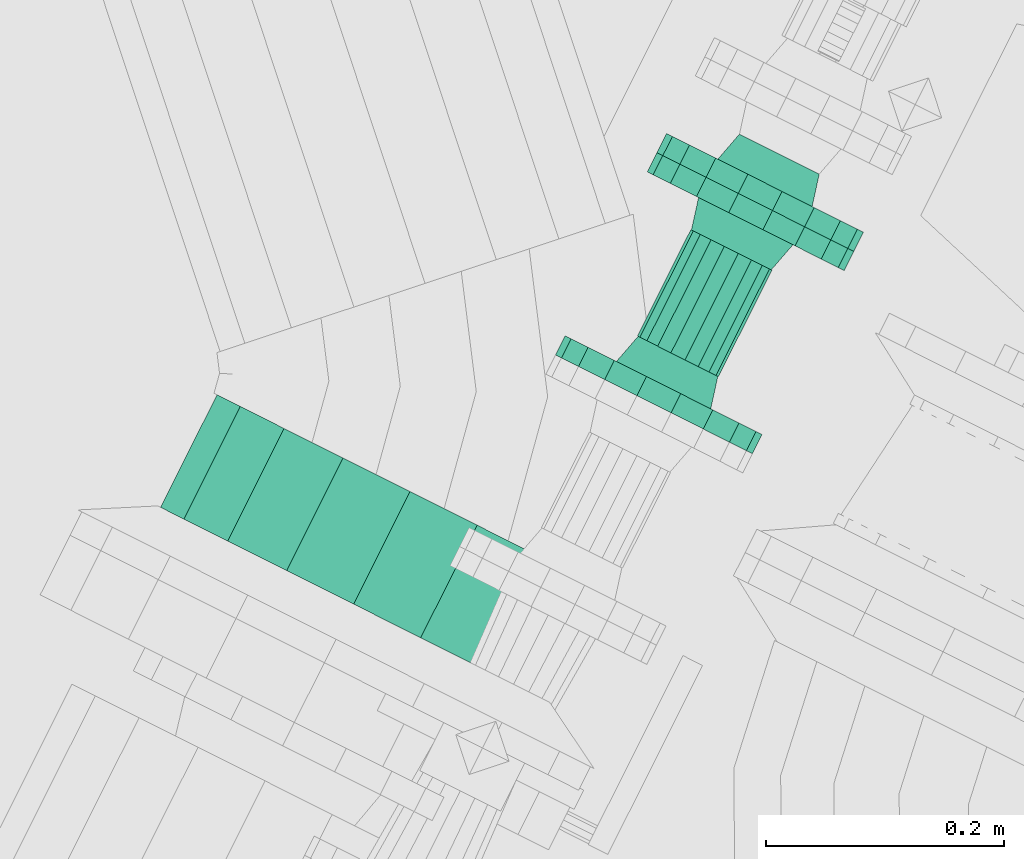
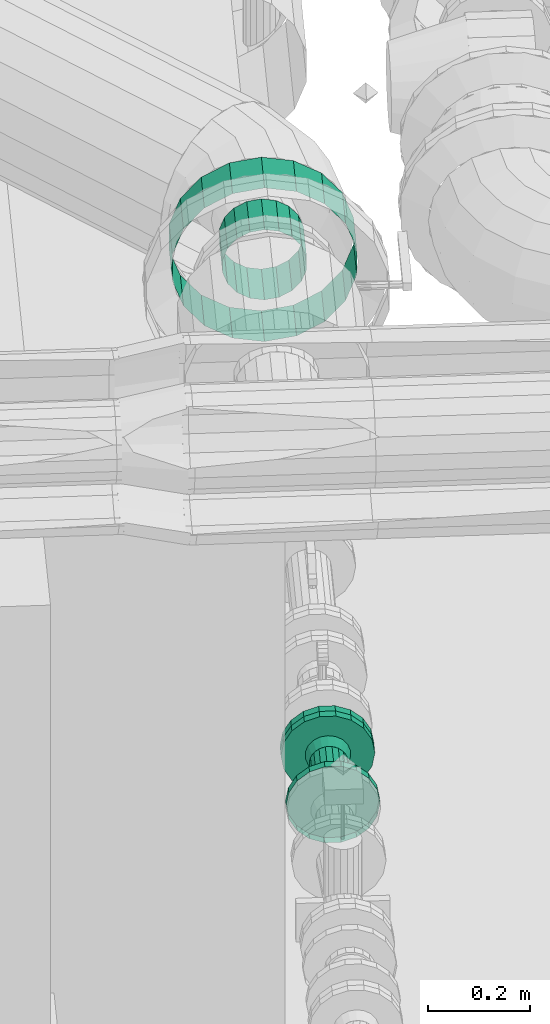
# One storey, part 67 of 206: 3 flow fittings, 2 flow segments.
"""IFC2X3 building model written with IfcOpenShell, lengths in metres."""

from ifc_helpers import new_model, si_unit, derived_unit, direction, frame, origin, place, context, subcontext, project, spatial, face_set, surface_model, source, transform, mapped, material, type_object, type_shapes, element, save


model = new_model("IFC2X3")

# Units and contexts
model_context = context("Model", 3, precision=5.2338327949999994e-05, world=origin(), true_north=direction((0.0, 1.0)))
body_context = subcontext(model_context, "Body", "Model", "MODEL_VIEW")
ifc_project = project(units=[si_unit("LENGTHUNIT", "METRE"), si_unit("AREAUNIT", "SQUARE_METRE"), si_unit("VOLUMEUNIT", "CUBIC_METRE"), si_unit("MASSUNIT", "GRAM", prefix="KILO"), si_unit("PLANEANGLEUNIT", "RADIAN"), derived_unit("THERMALTRANSMITTANCEUNIT", [(si_unit("MASSUNIT", "GRAM", prefix="KILO"), 1), (si_unit("THERMODYNAMICTEMPERATUREUNIT", "KELVIN"), -1), (si_unit("TIMEUNIT", "SECOND"), -3)])], contexts=[model_context])

# Site, building, storey
site_placement = place(None, frame((0.0, 0.0, 0.0), z_axis=(0.0, 0.0, 1.0), x_axis=(0.8939966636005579, -0.4480736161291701, 0.0)))
site = spatial("IfcSite", under=ifc_project, at=site_placement, Name="Default", CompositionType="ELEMENT")
building_placement = place(site_placement, origin())
building = spatial("IfcBuilding", under=site, at=building_placement, CompositionType="ELEMENT")
storey_placement = place(building_placement, origin())
storey = spatial("IfcBuildingStorey", under=building, at=storey_placement, Name="Erdgeschoss", CompositionType="ELEMENT", Elevation=0.0)

# Flow segment
ifc_material_1 = material(Name="IfcSurfaceStyle #9317")
distribution_element_type_1 = type_object("IfcDistributionElementType", Name="Stahlrohr nach DIN 2448 343104:Stahlrohr nach DIN 2448 343104", material=ifc_material_1)
shared_shape_1 = source(origin(), body_context, "Body", "SurfaceModel", [
    surface_model("IfcFaceBasedSurfaceModel", [(24.94039869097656, 5.560674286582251, 2.43815), (24.9116176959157, 5.560674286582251, 2.433075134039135), (24.9116176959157, 5.454912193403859, 2.4330751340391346), (24.940398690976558, 5.454912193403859, 2.4381499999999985), (24.886308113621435, 5.560674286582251, 2.4184626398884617), (24.886308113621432, 5.454912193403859, 2.418462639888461), (24.8675226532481, 5.560674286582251, 2.396075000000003), (24.867522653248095, 5.454912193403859, 2.3960750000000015), (24.857527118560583, 5.560674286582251, 2.3686124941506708), (24.857527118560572, 5.454912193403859, 2.3686124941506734), (24.857527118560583, 5.560674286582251, 2.3393875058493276), (24.857527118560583, 5.454912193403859, 2.3393875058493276), (24.867522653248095, 5.560674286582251, 2.3119249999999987), (24.867522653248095, 5.454912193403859, 2.311924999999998), (24.886308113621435, 5.560674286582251, 2.28953736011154), (24.886308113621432, 5.454912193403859, 2.289537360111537), (24.9116176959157, 5.560674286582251, 2.274924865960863), (24.9116176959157, 5.454912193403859, 2.274924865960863), (24.94039869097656, 5.560674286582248, 2.2698499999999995), (24.940398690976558, 5.454912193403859, 2.26985), (24.969179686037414, 5.560674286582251, 2.2749248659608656), (24.96917968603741, 5.454912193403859, 2.2749248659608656), (24.994489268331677, 5.560674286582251, 2.289537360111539), (24.994489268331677, 5.454912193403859, 2.289537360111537), (25.013274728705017, 5.560674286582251, 2.3119250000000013), (25.013274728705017, 5.454912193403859, 2.3119250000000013), (25.023270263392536, 5.560674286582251, 2.3393875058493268), (25.023270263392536, 5.454912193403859, 2.3393875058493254), (25.023270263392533, 5.560674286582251, 2.3686124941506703), (25.023270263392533, 5.454912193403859, 2.368612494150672), (25.013274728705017, 5.560674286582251, 2.3960749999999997), (25.013274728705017, 5.454912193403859, 2.3960749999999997), (24.99448926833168, 5.560674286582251, 2.4184626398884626), (24.99448926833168, 5.454912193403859, 2.4184626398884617), (24.96917968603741, 5.560674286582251, 2.433075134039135), (24.96917968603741, 5.454912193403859, 2.4330751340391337), (24.94039869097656, 5.560674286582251, 2.5381499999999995), (24.87741568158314, 5.560674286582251, 2.5270443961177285), (24.877415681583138, 5.454912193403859, 2.5270443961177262), (24.940398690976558, 5.454912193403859, 2.5381499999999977), (24.822029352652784, 5.560674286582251, 2.4950670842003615), (24.822029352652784, 5.454912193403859, 2.495067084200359), (24.78092011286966, 5.560674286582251, 2.4460749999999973), (24.780920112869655, 5.454912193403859, 2.446074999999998), (24.759046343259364, 5.560674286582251, 2.385977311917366), (24.759046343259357, 5.454912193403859, 2.385977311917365), (24.759046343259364, 5.560674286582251, 2.3220226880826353), (24.759046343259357, 5.454912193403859, 2.3220226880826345), (24.780920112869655, 5.560674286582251, 2.261924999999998), (24.78092011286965, 5.454912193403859, 2.261924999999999), (24.82202935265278, 5.560674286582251, 2.2129329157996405), (24.82202935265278, 5.454912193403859, 2.2129329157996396), (24.877415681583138, 5.560674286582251, 2.1809556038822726), (24.877415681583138, 5.454912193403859, 2.1809556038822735), (24.940398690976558, 5.560674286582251, 2.1698499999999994), (24.94039869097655, 5.454912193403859, 2.1698499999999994), (25.003381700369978, 5.560674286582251, 2.1809556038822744), (25.003381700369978, 5.454912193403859, 2.180955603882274), (25.05876802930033, 5.560674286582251, 2.2129329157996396), (25.05876802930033, 5.454912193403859, 2.2129329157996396), (25.099877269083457, 5.560674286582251, 2.2619249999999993), (25.099877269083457, 5.454912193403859, 2.2619249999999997), (25.12175103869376, 5.560674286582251, 2.3220226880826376), (25.12175103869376, 5.454912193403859, 2.3220226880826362), (25.12175103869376, 5.560674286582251, 2.3859773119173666), (25.12175103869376, 5.454912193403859, 2.3859773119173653), (25.09987726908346, 5.560674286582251, 2.4460749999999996), (25.09987726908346, 5.454912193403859, 2.446075), (25.05876802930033, 5.560674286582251, 2.4950670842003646), (25.05876802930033, 5.454912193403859, 2.4950670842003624), (25.00338170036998, 5.560674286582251, 2.527044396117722), (25.00338170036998, 5.454912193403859, 2.527044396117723)], [face_set([[[0, 1, 2, 3]], [[1, 4, 5, 2]], [[4, 6, 7, 5]], [[6, 8, 9, 7]], [[8, 10, 11, 9]], [[10, 12, 13, 11]], [[12, 14, 15, 13]], [[14, 16, 17, 15]], [[16, 18, 19, 17]], [[18, 20, 21, 19]], [[20, 22, 23, 21]], [[22, 24, 25, 23]], [[24, 26, 27, 25]], [[26, 28, 29, 27]], [[28, 30, 31, 29]], [[30, 32, 33, 31]], [[32, 34, 35, 33]], [[34, 0, 3, 35]], [[36, 37, 38, 39]], [[37, 40, 41, 38]], [[40, 42, 43, 41]], [[42, 44, 45, 43]], [[44, 46, 47, 45]], [[46, 48, 49, 47]], [[48, 50, 51, 49]], [[50, 52, 53, 51]], [[52, 54, 55, 53]], [[54, 56, 57, 55]], [[56, 58, 59, 57]], [[58, 60, 61, 59]], [[60, 62, 63, 61]], [[62, 64, 65, 63]], [[64, 66, 67, 65]], [[66, 68, 69, 67]], [[68, 70, 71, 69]], [[70, 36, 39, 71]]])]),
])
type_shapes(distribution_element_type_1, [shared_shape_1])
flow_segment_1_placement = place(storey_placement, origin())
element("IfcFlowSegment", 1, at=flow_segment_1_placement, inside=storey, type_object=distribution_element_type_1, material=ifc_material_1, Name="Stahlrohr nach DIN 2448", ObjectType="Stahlrohr nach DIN 2448", context=body_context, shape_type="MappedRepresentation", body=[
    mapped(shared_shape_1, transform((0.0, 0.0, 0.0), scale=1.0)),
])

# Flow fitting
ifc_material_2 = material(Name="IfcSurfaceStyle #352577")
distribution_element_type_2 = type_object("IfcDistributionElementType", Name="Flansch 359670:Flansch 359670", material=ifc_material_2)
shared_shape_2 = source(origin(), body_context, "Body", "SurfaceModel", [
    surface_model("IfcFaceBasedSurfaceModel", [(24.998140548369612, 5.90795839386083, 0.8699999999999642), (25.00371898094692, 5.90795839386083, 0.8383631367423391), (25.00371898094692, 5.88995839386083, 0.8383631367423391), (24.998140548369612, 5.88995839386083, 0.8699999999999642), (25.01978143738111, 5.90795839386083, 0.810542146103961), (25.01978143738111, 5.88995839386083, 0.810542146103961), (25.044390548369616, 5.90795839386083, 0.7898926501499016), (25.044390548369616, 5.88995839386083, 0.7898926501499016), (25.07457809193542, 5.90795839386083, 0.7789052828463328), (25.07457809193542, 5.88995839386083, 0.7789052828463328), (25.10670300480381, 5.90795839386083, 0.7789052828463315), (25.10670300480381, 5.88995839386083, 0.7789052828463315), (25.136890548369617, 5.90795839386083, 0.7898926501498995), (25.136890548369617, 5.88995839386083, 0.7898926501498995), (25.161499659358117, 5.90795839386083, 0.8105421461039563), (25.161499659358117, 5.88995839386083, 0.8105421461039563), (25.17756211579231, 5.90795839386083, 0.8383631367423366), (25.17756211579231, 5.88995839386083, 0.8383631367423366), (25.183140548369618, 5.90795839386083, 0.8699999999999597), (25.183140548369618, 5.88995839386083, 0.8699999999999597), (25.17756211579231, 5.90795839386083, 0.9016368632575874), (25.17756211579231, 5.88995839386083, 0.9016368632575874), (25.161499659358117, 5.90795839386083, 0.9294578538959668), (25.161499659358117, 5.88995839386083, 0.9294578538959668), (25.13689054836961, 5.90795839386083, 0.9501073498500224), (25.13689054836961, 5.88995839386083, 0.9501073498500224), (25.10670300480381, 5.90795839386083, 0.9610947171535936), (25.10670300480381, 5.88995839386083, 0.9610947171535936), (25.07457809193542, 5.90795839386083, 0.9610947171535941), (25.07457809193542, 5.88995839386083, 0.9610947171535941), (25.044390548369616, 5.90795839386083, 0.9501073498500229), (25.044390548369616, 5.88995839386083, 0.9501073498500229), (25.01978143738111, 5.90795839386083, 0.9294578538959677), (25.01978143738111, 5.88995839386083, 0.9294578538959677), (25.003718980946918, 5.90795839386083, 0.9016368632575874), (25.003718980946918, 5.88995839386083, 0.9016368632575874), (25.090640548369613, 5.88995839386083, 0.8699999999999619), (25.090640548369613, 5.88995839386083, 0.8249999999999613), (25.106031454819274, 5.88995839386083, 0.8277138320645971), (25.10365441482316, 5.862958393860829, 0.8342446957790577), (25.090640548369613, 5.862958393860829, 0.8319499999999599), (25.119565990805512, 5.88995839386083, 0.8355280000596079), (25.11509861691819, 5.862958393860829, 0.8408520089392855), (25.129611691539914, 5.88995839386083, 0.8474999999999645), (25.123592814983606, 5.862958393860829, 0.8509749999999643), (25.13495689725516, 5.88995839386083, 0.8621858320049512), (25.128112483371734, 5.862958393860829, 0.8633926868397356), (25.13495689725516, 5.88995839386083, 0.8778141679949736), (25.12811248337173, 5.862958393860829, 0.8766073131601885), (25.129611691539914, 5.889958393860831, 0.8924999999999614), (25.123592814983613, 5.862958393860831, 0.889024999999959), (25.119565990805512, 5.88995839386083, 0.9044719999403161), (25.115098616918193, 5.862958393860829, 0.8991479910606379), (25.10603145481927, 5.88995839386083, 0.9122861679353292), (25.10365441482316, 5.862958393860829, 0.9057553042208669), (25.090640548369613, 5.88995839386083, 0.9149999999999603), (25.090640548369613, 5.862958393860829, 0.9080499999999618), (25.075249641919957, 5.88995839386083, 0.9122861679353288), (25.07762668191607, 5.862958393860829, 0.9057553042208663), (25.061715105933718, 5.889958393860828, 0.9044719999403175), (25.06618247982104, 5.862958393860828, 0.8991479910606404), (25.051669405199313, 5.88995839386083, 0.8924999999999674), (25.05768828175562, 5.862958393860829, 0.8890249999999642), (25.046324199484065, 5.88995839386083, 0.8778141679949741), (25.053168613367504, 5.862958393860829, 0.8766073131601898), (25.046324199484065, 5.88995839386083, 0.8621858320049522), (25.0531686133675, 5.862958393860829, 0.8633926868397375), (25.051669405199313, 5.88995839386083, 0.8474999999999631), (25.05768828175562, 5.862958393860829, 0.850974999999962), (25.061715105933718, 5.88995839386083, 0.8355280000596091), (25.06618247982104, 5.862958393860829, 0.8408520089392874), (25.075249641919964, 5.88995839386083, 0.8277138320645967), (25.077626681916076, 5.862958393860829, 0.8342446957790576)], [face_set([[[0, 1, 2, 3]], [[1, 4, 5, 2]], [[4, 6, 7, 5]], [[6, 8, 9, 7]], [[8, 10, 11, 9]], [[10, 12, 13, 11]], [[12, 14, 15, 13]], [[14, 16, 17, 15]], [[16, 18, 19, 17]], [[18, 20, 21, 19]], [[20, 22, 23, 21]], [[22, 24, 25, 23]], [[24, 26, 27, 25]], [[26, 28, 29, 27]], [[28, 30, 31, 29]], [[30, 32, 33, 31]], [[32, 34, 35, 33]], [[34, 0, 3, 35]], [[36, 35, 3]], [[36, 33, 35]], [[36, 31, 33]], [[36, 29, 31]], [[36, 27, 29]], [[36, 25, 27]], [[36, 23, 25]], [[36, 21, 23]], [[36, 19, 21]], [[36, 17, 19]], [[36, 15, 17]], [[36, 13, 15]], [[36, 11, 13]], [[36, 9, 11]], [[36, 7, 9]], [[36, 5, 7]], [[36, 2, 5]], [[36, 3, 2]], [[37, 38, 39, 40]], [[38, 41, 42, 39]], [[41, 43, 44, 42]], [[43, 45, 46, 44]], [[45, 47, 48, 46]], [[47, 49, 50, 48]], [[49, 51, 52, 50]], [[51, 53, 54, 52]], [[53, 55, 56, 54]], [[55, 57, 58, 56]], [[57, 59, 60, 58]], [[59, 61, 62, 60]], [[61, 63, 64, 62]], [[63, 65, 66, 64]], [[65, 67, 68, 66]], [[67, 69, 70, 68]], [[69, 71, 72, 70]], [[71, 37, 40, 72]]])]),
])
type_shapes(distribution_element_type_2, [shared_shape_2])
flow_fitting_1_placement = place(storey_placement, origin())
element("IfcFlowFitting", 2, at=flow_fitting_1_placement, inside=storey, type_object=distribution_element_type_2, material=ifc_material_2, Name="Flansch", ObjectType="Flansch", context=body_context, shape_type="MappedRepresentation", body=[
    mapped(shared_shape_2, transform((0.0, 0.0, 0.0), scale=1.0)),
])

# Flow segment
distribution_element_type_3 = type_object("IfcDistributionElementType", Name="Stahlrohr nach DIN 2448 360805:Stahlrohr nach DIN 2448 360805", material=ifc_material_2)
shared_shape_3 = source(origin(), body_context, "Body", "SurfaceModel", [
    surface_model("IfcFaceBasedSurfaceModel", [(25.052590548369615, 5.862958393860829, 0.8699999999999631), (25.05488524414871, 5.862958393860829, 0.8569861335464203), (25.05488524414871, 5.76295839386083, 0.8569861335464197), (25.052590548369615, 5.76295839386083, 0.8699999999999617), (25.061492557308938, 5.862958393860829, 0.8455419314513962), (25.061492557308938, 5.76295839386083, 0.8455419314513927), (25.07161554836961, 5.862958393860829, 0.8370477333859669), (25.071615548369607, 5.76295839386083, 0.8370477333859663), (25.084033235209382, 5.862958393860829, 0.8325280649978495), (25.084033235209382, 5.76295839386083, 0.8325280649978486), (25.09724786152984, 5.862958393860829, 0.832528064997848), (25.09724786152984, 5.76295839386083, 0.8325280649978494), (25.109665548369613, 5.862958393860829, 0.837047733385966), (25.109665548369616, 5.76295839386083, 0.8370477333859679), (25.119788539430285, 5.862958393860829, 0.8455419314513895), (25.119788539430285, 5.76295839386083, 0.845541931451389), (25.126395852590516, 5.862958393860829, 0.8569861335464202), (25.126395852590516, 5.76295839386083, 0.856986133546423), (25.12869054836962, 5.862958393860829, 0.8699999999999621), (25.128690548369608, 5.76295839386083, 0.8699999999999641), (25.126395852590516, 5.862958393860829, 0.883013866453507), (25.126395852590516, 5.76295839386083, 0.883013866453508), (25.11978853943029, 5.862958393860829, 0.8944580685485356), (25.119788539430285, 5.76295839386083, 0.8944580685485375), (25.109665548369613, 5.862958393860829, 0.9029522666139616), (25.109665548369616, 5.76295839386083, 0.9029522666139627), (25.097247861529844, 5.862958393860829, 0.9074719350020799), (25.09724786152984, 5.76295839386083, 0.9074719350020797), (25.084033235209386, 5.862958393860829, 0.9074719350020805), (25.084033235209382, 5.76295839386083, 0.9074719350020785), (25.071615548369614, 5.862958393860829, 0.9029522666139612), (25.071615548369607, 5.76295839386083, 0.9029522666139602), (25.061492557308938, 5.862958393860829, 0.8944580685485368), (25.061492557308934, 5.76295839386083, 0.8944580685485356), (25.05488524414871, 5.862958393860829, 0.8830138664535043), (25.05488524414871, 5.76295839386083, 0.8830138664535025)], [face_set([[[0, 1, 2, 3]], [[1, 4, 5, 2]], [[4, 6, 7, 5]], [[6, 8, 9, 7]], [[8, 10, 11, 9]], [[10, 12, 13, 11]], [[12, 14, 15, 13]], [[14, 16, 17, 15]], [[16, 18, 19, 17]], [[18, 20, 21, 19]], [[20, 22, 23, 21]], [[22, 24, 25, 23]], [[24, 26, 27, 25]], [[26, 28, 29, 27]], [[28, 30, 31, 29]], [[30, 32, 33, 31]], [[32, 34, 35, 33]], [[34, 0, 3, 35]]])]),
])
type_shapes(distribution_element_type_3, [shared_shape_3])
flow_segment_2_placement = place(storey_placement, origin())
element("IfcFlowSegment", 3, at=flow_segment_2_placement, inside=storey, type_object=distribution_element_type_3, material=ifc_material_2, Name="Stahlrohr nach DIN 2448", ObjectType="Stahlrohr nach DIN 2448", context=body_context, shape_type="MappedRepresentation", body=[
    mapped(shared_shape_3, transform((0.0, 0.0, 0.0), scale=1.0)),
])

# Flow fittings
distribution_element_type_4 = type_object("IfcDistributionElementType", Name="Flansch 603027:Flansch 603027", material=ifc_material_2)
shared_shape_4 = source(origin(), body_context, "Body", "SurfaceModel", [
    surface_model("IfcFaceBasedSurfaceModel", [(24.998140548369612, 5.71795839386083, 0.8699999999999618), (25.00371898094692, 5.71795839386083, 0.9016368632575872), (25.00371898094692, 5.73595839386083, 0.9016368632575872), (24.998140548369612, 5.73595839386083, 0.8699999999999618), (25.01978143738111, 5.71795839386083, 0.9294578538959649), (25.01978143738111, 5.73595839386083, 0.9294578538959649), (25.044390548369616, 5.71795839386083, 0.950107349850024), (25.044390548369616, 5.73595839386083, 0.950107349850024), (25.07457809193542, 5.71795839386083, 0.961094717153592), (25.07457809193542, 5.73595839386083, 0.961094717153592), (25.10670300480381, 5.71795839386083, 0.9610947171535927), (25.10670300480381, 5.73595839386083, 0.9610947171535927), (25.136890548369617, 5.71795839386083, 0.9501073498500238), (25.136890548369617, 5.73595839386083, 0.9501073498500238), (25.161499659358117, 5.71795839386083, 0.9294578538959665), (25.161499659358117, 5.73595839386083, 0.9294578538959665), (25.17756211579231, 5.71795839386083, 0.9016368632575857), (25.17756211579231, 5.73595839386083, 0.9016368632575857), (25.183140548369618, 5.71795839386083, 0.8699999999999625), (25.183140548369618, 5.73595839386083, 0.8699999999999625), (25.17756211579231, 5.71795839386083, 0.8383631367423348), (25.17756211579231, 5.73595839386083, 0.8383631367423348), (25.161499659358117, 5.71795839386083, 0.8105421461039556), (25.161499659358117, 5.73595839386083, 0.8105421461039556), (25.13689054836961, 5.71795839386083, 0.7898926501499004), (25.13689054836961, 5.73595839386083, 0.7898926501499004), (25.106703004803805, 5.71795839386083, 0.7789052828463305), (25.106703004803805, 5.73595839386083, 0.7789052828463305), (25.07457809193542, 5.71795839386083, 0.7789052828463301), (25.07457809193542, 5.73595839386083, 0.7789052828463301), (25.044390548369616, 5.71795839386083, 0.7898926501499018), (25.044390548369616, 5.73595839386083, 0.7898926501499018), (25.01978143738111, 5.71795839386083, 0.8105421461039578), (25.01978143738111, 5.73595839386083, 0.8105421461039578), (25.003718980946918, 5.71795839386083, 0.8383631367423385), (25.003718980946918, 5.73595839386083, 0.8383631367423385), (25.090640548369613, 5.73595839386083, 0.8699999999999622), (25.090640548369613, 5.73595839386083, 0.914999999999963), (25.106031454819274, 5.73595839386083, 0.9122861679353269), (25.10365441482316, 5.76295839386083, 0.9057553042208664), (25.090640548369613, 5.76295839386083, 0.9080499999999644), (25.119565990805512, 5.73595839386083, 0.9044719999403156), (25.11509861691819, 5.76295839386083, 0.8991479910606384), (25.129611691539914, 5.73595839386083, 0.892499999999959), (25.123592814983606, 5.76295839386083, 0.8890249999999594), (25.13495689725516, 5.73595839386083, 0.87781416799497), (25.12811248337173, 5.76295839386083, 0.876607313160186), (25.13495689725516, 5.73595839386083, 0.8621858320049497), (25.12811248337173, 5.76295839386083, 0.8633926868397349), (25.12961169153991, 5.73595839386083, 0.8474999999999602), (25.12359281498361, 5.76295839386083, 0.8509749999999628), (25.11956599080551, 5.73595839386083, 0.8355280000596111), (25.11509861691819, 5.76295839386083, 0.8408520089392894), (25.10603145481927, 5.73595839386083, 0.8277138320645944), (25.10365441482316, 5.76295839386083, 0.8342446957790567), (25.090640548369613, 5.73595839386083, 0.8249999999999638), (25.090640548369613, 5.76295839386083, 0.8319499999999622), (25.075249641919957, 5.73595839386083, 0.8277138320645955), (25.07762668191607, 5.76295839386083, 0.8342446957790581), (25.061715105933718, 5.735958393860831, 0.835528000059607), (25.06618247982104, 5.762958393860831, 0.8408520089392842), (25.051669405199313, 5.735958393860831, 0.8474999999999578), (25.05768828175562, 5.762958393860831, 0.8509749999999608), (25.046324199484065, 5.73595839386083, 0.862185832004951), (25.053168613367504, 5.76295839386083, 0.863392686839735), (25.046324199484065, 5.73595839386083, 0.877814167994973), (25.0531686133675, 5.76295839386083, 0.8766073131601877), (25.051669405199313, 5.73595839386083, 0.8924999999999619), (25.05768828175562, 5.76295839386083, 0.8890249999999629), (25.061715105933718, 5.73595839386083, 0.9044719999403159), (25.06618247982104, 5.76295839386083, 0.8991479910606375), (25.075249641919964, 5.73595839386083, 0.9122861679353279), (25.077626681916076, 5.76295839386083, 0.9057553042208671)], [face_set([[[0, 1, 2, 3]], [[1, 4, 5, 2]], [[4, 6, 7, 5]], [[6, 8, 9, 7]], [[8, 10, 11, 9]], [[10, 12, 13, 11]], [[12, 14, 15, 13]], [[14, 16, 17, 15]], [[16, 18, 19, 17]], [[18, 20, 21, 19]], [[20, 22, 23, 21]], [[22, 24, 25, 23]], [[24, 26, 27, 25]], [[26, 28, 29, 27]], [[28, 30, 31, 29]], [[30, 32, 33, 31]], [[32, 34, 35, 33]], [[34, 0, 3, 35]], [[36, 35, 3]], [[36, 33, 35]], [[36, 31, 33]], [[36, 29, 31]], [[36, 27, 29]], [[36, 25, 27]], [[36, 23, 25]], [[36, 21, 23]], [[36, 19, 21]], [[36, 17, 19]], [[36, 15, 17]], [[36, 13, 15]], [[36, 11, 13]], [[36, 9, 11]], [[36, 7, 9]], [[36, 5, 7]], [[36, 2, 5]], [[36, 3, 2]], [[37, 38, 39, 40]], [[38, 41, 42, 39]], [[41, 43, 44, 42]], [[43, 45, 46, 44]], [[45, 47, 48, 46]], [[47, 49, 50, 48]], [[49, 51, 52, 50]], [[51, 53, 54, 52]], [[53, 55, 56, 54]], [[55, 57, 58, 56]], [[57, 59, 60, 58]], [[59, 61, 62, 60]], [[61, 63, 64, 62]], [[63, 65, 66, 64]], [[65, 67, 68, 66]], [[67, 69, 70, 68]], [[69, 71, 72, 70]], [[71, 37, 40, 72]]])]),
])
type_shapes(distribution_element_type_4, [shared_shape_4])
flow_fitting_2_placement = place(storey_placement, origin())
element("IfcFlowFitting", 4, at=flow_fitting_2_placement, inside=storey, type_object=distribution_element_type_4, material=ifc_material_2, Name="Flansch", ObjectType="Flansch", context=body_context, shape_type="MappedRepresentation", body=[
    mapped(shared_shape_4, transform((0.0, 0.0, 0.0), scale=1.0)),
])
distribution_element_type_5 = type_object("IfcDistributionElementType", Name="Flansch 604088:Flansch 604088", material=ifc_material_2)
shared_shape_5 = source(origin(), body_context, "Body", "SurfaceModel", [
    surface_model("IfcFaceBasedSurfaceModel", [(24.998140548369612, 5.90795839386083, 0.8699999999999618), (25.00371898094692, 5.90795839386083, 0.9016368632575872), (25.00371898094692, 5.925958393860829, 0.9016368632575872), (24.998140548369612, 5.925958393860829, 0.8699999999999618), (25.01978143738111, 5.90795839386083, 0.9294578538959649), (25.01978143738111, 5.925958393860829, 0.9294578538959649), (25.044390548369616, 5.90795839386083, 0.950107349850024), (25.044390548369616, 5.925958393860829, 0.950107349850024), (25.07457809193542, 5.90795839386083, 0.961094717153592), (25.07457809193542, 5.925958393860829, 0.961094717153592), (25.10670300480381, 5.90795839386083, 0.9610947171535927), (25.10670300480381, 5.925958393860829, 0.9610947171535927), (25.136890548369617, 5.90795839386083, 0.9501073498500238), (25.136890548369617, 5.925958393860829, 0.9501073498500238), (25.161499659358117, 5.90795839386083, 0.9294578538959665), (25.161499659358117, 5.925958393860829, 0.9294578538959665), (25.17756211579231, 5.90795839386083, 0.9016368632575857), (25.17756211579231, 5.925958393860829, 0.9016368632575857), (25.183140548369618, 5.90795839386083, 0.8699999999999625), (25.183140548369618, 5.925958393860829, 0.8699999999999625), (25.17756211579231, 5.90795839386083, 0.8383631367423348), (25.17756211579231, 5.925958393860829, 0.8383631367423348), (25.161499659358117, 5.90795839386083, 0.8105421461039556), (25.161499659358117, 5.925958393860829, 0.8105421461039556), (25.13689054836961, 5.90795839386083, 0.7898926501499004), (25.13689054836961, 5.925958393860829, 0.7898926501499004), (25.106703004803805, 5.90795839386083, 0.7789052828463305), (25.106703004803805, 5.925958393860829, 0.7789052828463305), (25.07457809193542, 5.90795839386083, 0.7789052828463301), (25.07457809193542, 5.925958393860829, 0.7789052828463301), (25.044390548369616, 5.90795839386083, 0.7898926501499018), (25.044390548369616, 5.925958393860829, 0.7898926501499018), (25.01978143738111, 5.90795839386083, 0.8105421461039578), (25.01978143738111, 5.925958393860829, 0.8105421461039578), (25.003718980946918, 5.90795839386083, 0.8383631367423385), (25.003718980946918, 5.925958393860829, 0.8383631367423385), (25.090640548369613, 5.925958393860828, 0.8699999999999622), (25.090640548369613, 5.925958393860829, 0.914999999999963), (25.106031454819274, 5.925958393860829, 0.9122861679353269), (25.10365441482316, 5.95295839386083, 0.9057553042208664), (25.090640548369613, 5.95295839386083, 0.9080499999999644), (25.119565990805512, 5.925958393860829, 0.9044719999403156), (25.11509861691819, 5.95295839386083, 0.8991479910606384), (25.129611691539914, 5.925958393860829, 0.892499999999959), (25.123592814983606, 5.95295839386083, 0.8890249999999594), (25.13495689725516, 5.925958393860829, 0.87781416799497), (25.12811248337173, 5.95295839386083, 0.876607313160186), (25.13495689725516, 5.925958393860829, 0.8621858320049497), (25.12811248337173, 5.95295839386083, 0.8633926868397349), (25.12961169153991, 5.925958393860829, 0.8474999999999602), (25.12359281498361, 5.95295839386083, 0.8509749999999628), (25.11956599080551, 5.925958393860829, 0.8355280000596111), (25.11509861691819, 5.95295839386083, 0.8408520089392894), (25.10603145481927, 5.925958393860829, 0.8277138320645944), (25.10365441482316, 5.95295839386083, 0.8342446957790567), (25.090640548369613, 5.925958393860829, 0.8249999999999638), (25.090640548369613, 5.95295839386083, 0.8319499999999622), (25.075249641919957, 5.925958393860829, 0.8277138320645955), (25.07762668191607, 5.95295839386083, 0.8342446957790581), (25.061715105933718, 5.925958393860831, 0.835528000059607), (25.06618247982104, 5.952958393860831, 0.8408520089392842), (25.051669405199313, 5.925958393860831, 0.8474999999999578), (25.05768828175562, 5.952958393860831, 0.8509749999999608), (25.046324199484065, 5.925958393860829, 0.862185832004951), (25.053168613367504, 5.95295839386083, 0.863392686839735), (25.046324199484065, 5.925958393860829, 0.877814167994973), (25.0531686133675, 5.95295839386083, 0.8766073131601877), (25.051669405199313, 5.925958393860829, 0.8924999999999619), (25.05768828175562, 5.95295839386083, 0.8890249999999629), (25.061715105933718, 5.925958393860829, 0.9044719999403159), (25.06618247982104, 5.95295839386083, 0.8991479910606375), (25.075249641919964, 5.925958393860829, 0.9122861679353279), (25.077626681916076, 5.95295839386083, 0.9057553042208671)], [face_set([[[0, 1, 2, 3]], [[1, 4, 5, 2]], [[4, 6, 7, 5]], [[6, 8, 9, 7]], [[8, 10, 11, 9]], [[10, 12, 13, 11]], [[12, 14, 15, 13]], [[14, 16, 17, 15]], [[16, 18, 19, 17]], [[18, 20, 21, 19]], [[20, 22, 23, 21]], [[22, 24, 25, 23]], [[24, 26, 27, 25]], [[26, 28, 29, 27]], [[28, 30, 31, 29]], [[30, 32, 33, 31]], [[32, 34, 35, 33]], [[34, 0, 3, 35]], [[36, 35, 3]], [[36, 33, 35]], [[36, 31, 33]], [[36, 29, 31]], [[36, 27, 29]], [[36, 25, 27]], [[36, 23, 25]], [[36, 21, 23]], [[36, 19, 21]], [[36, 17, 19]], [[36, 15, 17]], [[36, 13, 15]], [[36, 11, 13]], [[36, 9, 11]], [[36, 7, 9]], [[36, 5, 7]], [[36, 2, 5]], [[36, 3, 2]], [[37, 38, 39, 40]], [[38, 41, 42, 39]], [[41, 43, 44, 42]], [[43, 45, 46, 44]], [[45, 47, 48, 46]], [[47, 49, 50, 48]], [[49, 51, 52, 50]], [[51, 53, 54, 52]], [[53, 55, 56, 54]], [[55, 57, 58, 56]], [[57, 59, 60, 58]], [[59, 61, 62, 60]], [[61, 63, 64, 62]], [[63, 65, 66, 64]], [[65, 67, 68, 66]], [[67, 69, 70, 68]], [[69, 71, 72, 70]], [[71, 37, 40, 72]]])]),
])
type_shapes(distribution_element_type_5, [shared_shape_5])
flow_fitting_3_placement = place(storey_placement, origin())
element("IfcFlowFitting", 5, at=flow_fitting_3_placement, inside=storey, type_object=distribution_element_type_5, material=ifc_material_2, Name="Flansch", ObjectType="Flansch", context=body_context, shape_type="MappedRepresentation", body=[
    mapped(shared_shape_5, transform((0.0, 0.0, 0.0), scale=1.0)),
])

save(model, "model.ifc")
